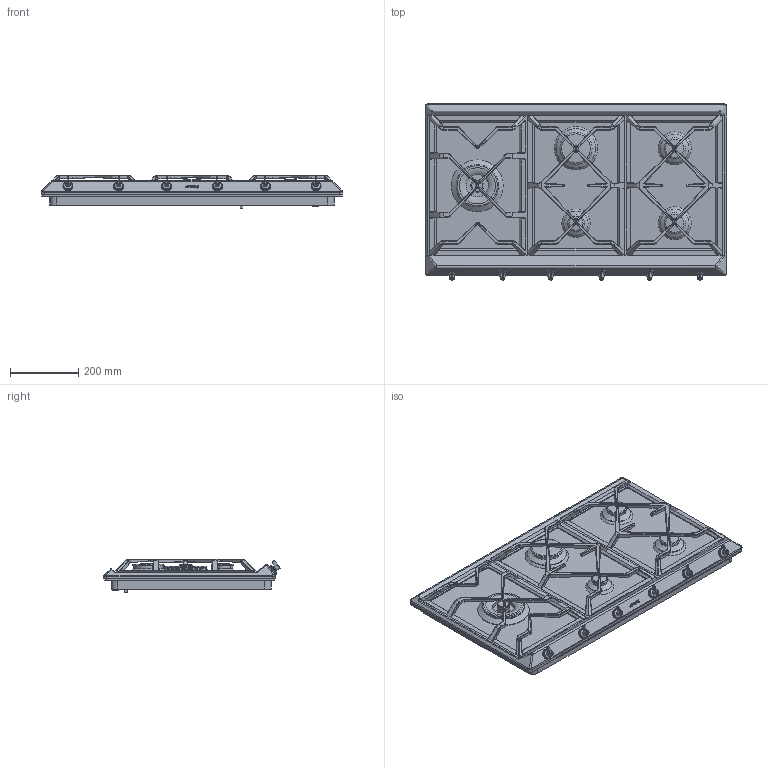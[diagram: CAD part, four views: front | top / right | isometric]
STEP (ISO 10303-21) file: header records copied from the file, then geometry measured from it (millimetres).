
FILE_DESCRIPTION(/* description */ (''),/* implementation_level */ '2;1');
FILE_NAME(/* name */ 'piano se97gxbe5.stp',/* time_stamp */ '2019-02-12T15:56:35+01:00',/* author */ (''),/* organization */ (''),/* preprocessor_version */ 'ST-DEVELOPER v16',/* originating_system */ 'SIEMENS PLM Software NX 11.0',/* authorisation */ '');
FILE_SCHEMA (('AUTOMOTIVE_DESIGN { 1 0 10303 214 3 1 1 1 }'));
Length unit declared in the file: millimetre
Products named in the file (1): gobb0AC4B270sydp
Bounding box: 886 x 517.42 x 97.59 mm (x, y, z)
Volume: 20539273 mm3; surface area: 2469627 mm2
Topology: 38 solids, 38 shells, 1216 faces, 2909 edges, 1755 vertices
Faces by surface type: plane 540, cylinder 422, bspline 100, torus 94, sphere 28, cone 21, extrusion 11
Full cylindrical faces by diameter (mm): 3.37 x6, 6 x6, 8 x7, 9.8 x12, 10 x6, 13.5 x6, 16 x2, 22.3 x1, 27 x6, 28 x1, 29 x6, 38 x1, 42 x1, 43 x1, 55 x2, 56 x2, 65.6 x1, 70.5 x1, 83 x2, 87 x1, 88 x1, 111 x1, 113.5 x1, 115 x1, 122.009 x1, 152 x1
Entity records: 35515 total; most frequent: CARTESIAN_POINT 7585, DIRECTION 6030, ORIENTED_EDGE 5456, EDGE_CURVE 2728, AXIS2_PLACEMENT_3D 2288, VERTEX_POINT 1725, VECTOR 1454, LINE 1443
